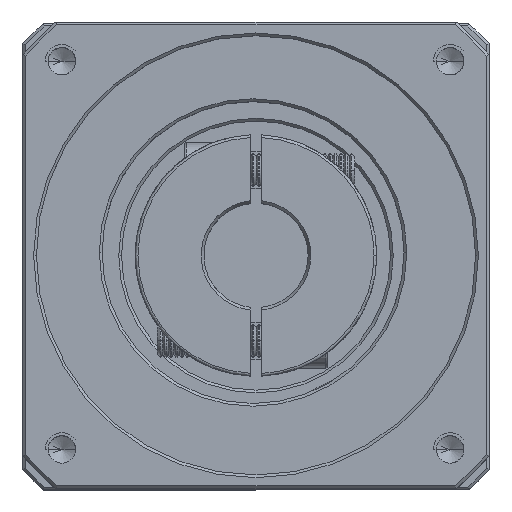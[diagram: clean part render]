
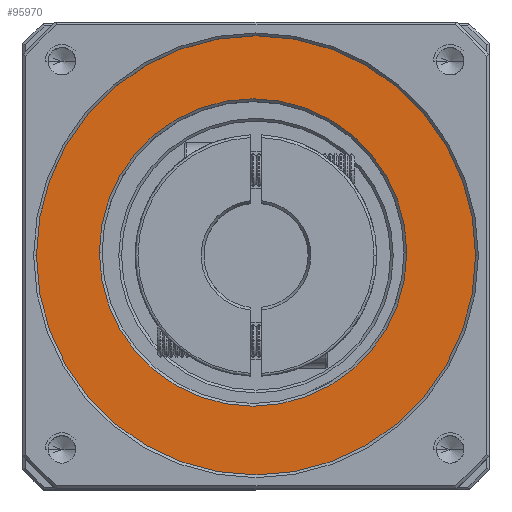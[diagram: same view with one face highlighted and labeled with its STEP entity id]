
A CAD part, top view. The second image highlights one B-rep face of the part: STEP entity #95970.
In plain terms, the highlighted planar face has unit normal (0, 0, 1).
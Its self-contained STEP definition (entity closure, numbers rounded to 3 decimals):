
#1828 = ORIENTED_EDGE ( 'NONE', *, *, #115564, .T. ) ;
#9300 = CARTESIAN_POINT ( 'NONE',  ( -93.264, 24.596, 19.207 ) ) ;
#13452 = CARTESIAN_POINT ( 'NONE',  ( -65.806, 25.131, 19.207 ) ) ;
#13501 = CARTESIAN_POINT ( 'NONE',  ( -121.806, 25.131, 19.207 ) ) ;
#17806 = EDGE_CURVE ( 'NONE', #100334, #88385, #18146, .T. ) ;
#18146 = CIRCLE ( 'NONE', #93702, 40. ) ;
#18294 = DIRECTION ( 'NONE',  ( 1., 0., 0. ) ) ;
#20119 = CARTESIAN_POINT ( 'NONE',  ( -93.806, 25.131, 19.207 ) ) ;
#21288 = EDGE_LOOP ( 'NONE', ( #1828, #103653 ) ) ;
#22168 = VERTEX_POINT ( 'NONE', #13501 ) ;
#27266 = DIRECTION ( 'NONE',  ( 0., 0., 1. ) ) ;
#29164 = DIRECTION ( 'NONE',  ( 1., 0., 0. ) ) ;
#29168 = AXIS2_PLACEMENT_3D ( 'NONE', #80903, #27266, #89911 ) ;
#34485 = CIRCLE ( 'NONE', #69120, 28. ) ;
#34525 = EDGE_LOOP ( 'NONE', ( #113625, #106725 ) ) ;
#43660 = DIRECTION ( 'NONE',  ( 0., 0., 1. ) ) ;
#44931 = PLANE ( 'NONE',  #29168 ) ;
#52011 = VERTEX_POINT ( 'NONE', #13452 ) ;
#52074 = CARTESIAN_POINT ( 'NONE',  ( -93.806, 25.131, 19.207 ) ) ;
#52797 = EDGE_CURVE ( 'NONE', #22168, #52011, #111909, .T. ) ;
#61071 = DIRECTION ( 'NONE',  ( 1., 0., 0. ) ) ;
#68530 = CARTESIAN_POINT ( 'NONE',  ( -133.264, 24.596, 19.207 ) ) ;
#69120 = AXIS2_PLACEMENT_3D ( 'NONE', #20119, #82753, #29164 ) ;
#71956 = DIRECTION ( 'NONE',  ( 0., 0., 1. ) ) ;
#74288 = AXIS2_PLACEMENT_3D ( 'NONE', #52074, #114666, #61071 ) ;
#78870 = AXIS2_PLACEMENT_3D ( 'NONE', #97246, #43660, #106293 ) ;
#78938 = FACE_OUTER_BOUND ( 'NONE', #34525, .T. ) ;
#80903 = CARTESIAN_POINT ( 'NONE',  ( -93.264, 24.596, 19.207 ) ) ;
#81723 = FACE_BOUND ( 'NONE', #21288, .T. ) ;
#82753 = DIRECTION ( 'NONE',  ( 0., 0., -1. ) ) ;
#88385 = VERTEX_POINT ( 'NONE', #90337 ) ;
#89911 = DIRECTION ( 'NONE',  ( 1., 0., 0. ) ) ;
#90337 = CARTESIAN_POINT ( 'NONE',  ( -53.264, 24.596, 19.207 ) ) ;
#93702 = AXIS2_PLACEMENT_3D ( 'NONE', #9300, #71956, #18294 ) ;
#95970 = ADVANCED_FACE ( 'NONE', ( #78938, #81723 ), #44931, .T. ) ;
#97246 = CARTESIAN_POINT ( 'NONE',  ( -93.264, 24.596, 19.207 ) ) ;
#100334 = VERTEX_POINT ( 'NONE', #68530 ) ;
#103653 = ORIENTED_EDGE ( 'NONE', *, *, #52797, .T. ) ;
#103883 = CIRCLE ( 'NONE', #78870, 40. ) ;
#106293 = DIRECTION ( 'NONE',  ( 1., 0., 0. ) ) ;
#106725 = ORIENTED_EDGE ( 'NONE', *, *, #17806, .T. ) ;
#111909 = CIRCLE ( 'NONE', #74288, 28. ) ;
#113331 = EDGE_CURVE ( 'NONE', #88385, #100334, #103883, .T. ) ;
#113625 = ORIENTED_EDGE ( 'NONE', *, *, #113331, .T. ) ;
#114666 = DIRECTION ( 'NONE',  ( 0., 0., -1. ) ) ;
#115564 = EDGE_CURVE ( 'NONE', #52011, #22168, #34485, .T. ) ;
